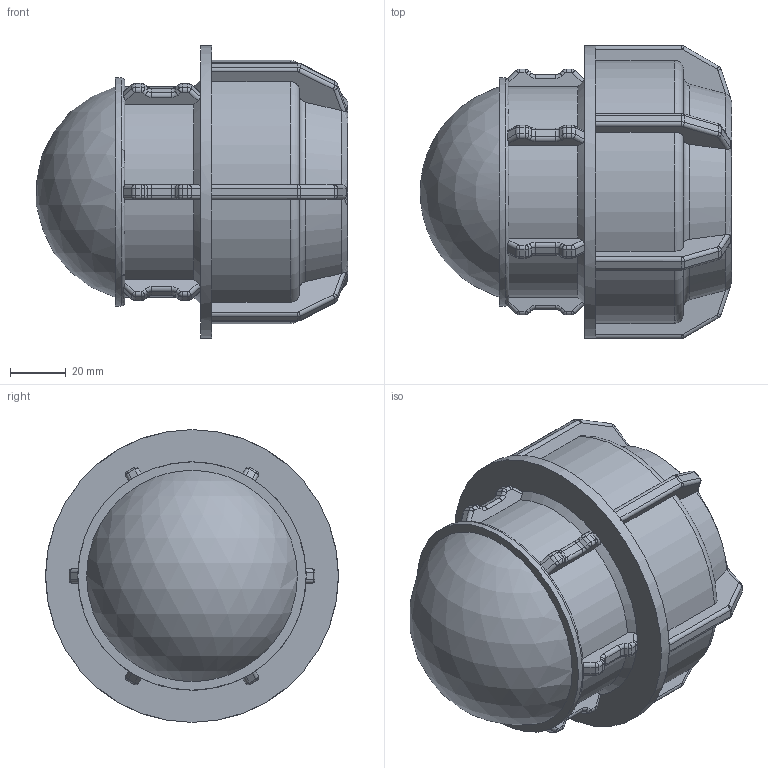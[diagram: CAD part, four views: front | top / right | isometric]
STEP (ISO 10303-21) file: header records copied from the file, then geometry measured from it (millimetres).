
FILE_DESCRIPTION(/* description */ ('PLASSON L.14 END PLUG (SILVER) 63'),/* implementation_level */ '2;1');
FILE_NAME(/* name */ 'C:\Dropbox\KIMPROJECTS-Inventor\99-16-3568-Processing\Silver+MF ISRAEL\141200\141200063.ipt.stp',/* time_stamp */ '2018-04-09T13:04:44+03:00',/* author */ ('KIM'),/* organization */ (''),/* preprocessor_version */ 'ST-DEVELOPER v15.6',/* originating_system */ 'Autodesk Inventor 2015',/* authorisation */ '');
FILE_SCHEMA (('AUTOMOTIVE_DESIGN { 1 0 10303 214 3 1 1 }'));
Length unit declared in the file: millimetre
Products named in the file (1): 141200063
Bounding box: 111.73 x 105 x 105 mm (x, y, z)
Volume: 262880.6 mm3; surface area: 64650.7 mm2
Topology: 1 solids, 1 shells, 467 faces, 1152 edges, 684 vertices
Faces by surface type: cylinder 184, plane 157, bspline 72, torus 39, cone 13, sphere 2
Full cylindrical faces by diameter (mm): 63 x2, 81.9 x1, 105 x1
Entity records: 14380 total; most frequent: CARTESIAN_POINT 3761, DIRECTION 2288, ORIENTED_EDGE 2240, EDGE_CURVE 1120, AXIS2_PLACEMENT_3D 919, VERTEX_POINT 670, CIRCLE 502, EDGE_LOOP 476
